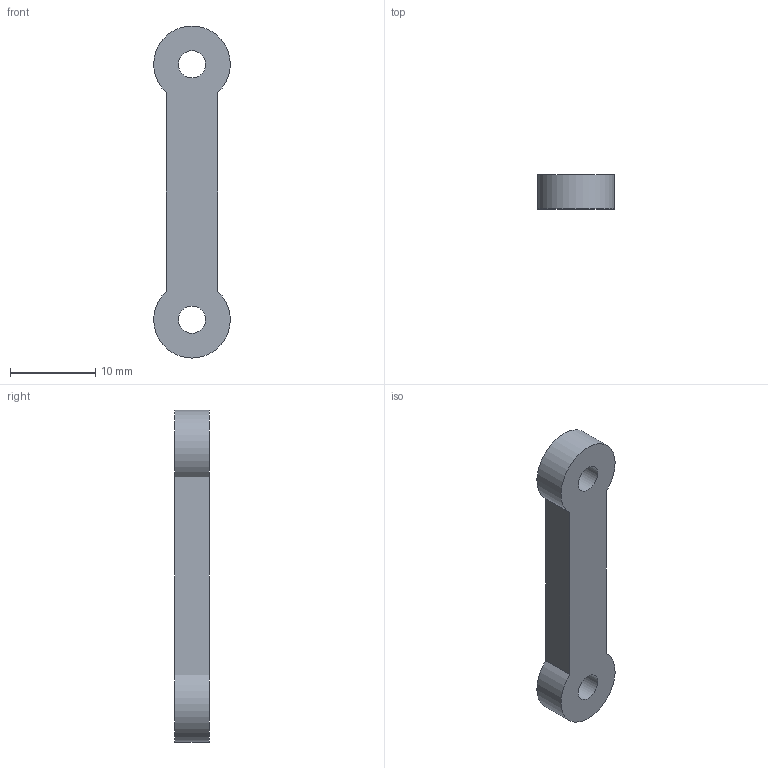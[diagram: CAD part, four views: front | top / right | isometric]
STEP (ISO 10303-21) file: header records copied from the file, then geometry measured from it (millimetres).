
FILE_DESCRIPTION(('Open CASCADE Model'),'2;1');
FILE_NAME('Open CASCADE Shape Model','2026-10-15T18:27:22',('Author'),( 'Open CASCADE'),'Open CASCADE STEP processor 7.9','Open CASCADE 7.9' ,'Unknown');
FILE_SCHEMA(('AUTOMOTIVE_DESIGN { 1 0 10303 214 1 1 1 1 }'));
Length unit declared in the file: millimetre
Products named in the file (1): Open CASCADE STEP translator 7.9 10
Bounding box: 9 x 4 x 39 mm (x, y, z)
Volume: 965.9 mm3; surface area: 923.4 mm2
Topology: 1 solids, 1 shells, 8 faces, 18 edges, 12 vertices
Faces by surface type: cylinder 4, plane 4
Full cylindrical faces by diameter (mm): 3.2 x2
Entity records: 492 total; most frequent: CARTESIAN_POINT 119, DIRECTION 66, ORIENTED_EDGE 36, PCURVE 36, DEFINITIONAL_REPRESENTATION 36, LINE 30, VECTOR 30, EDGE_CURVE 18
